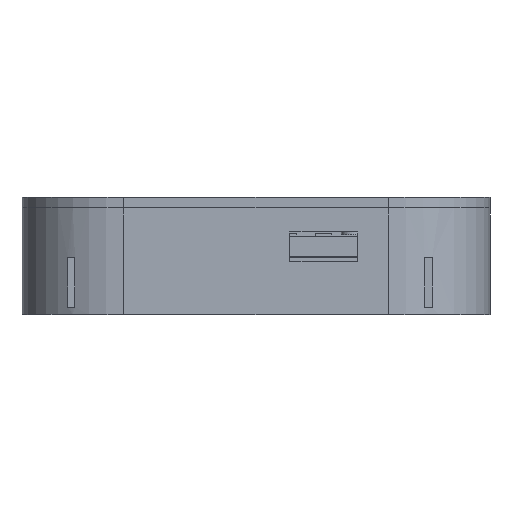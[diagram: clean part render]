
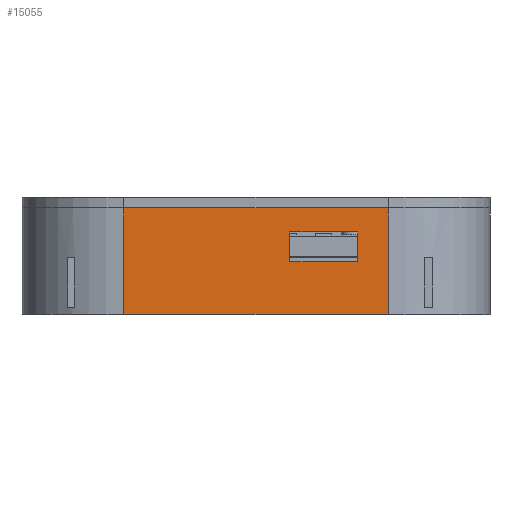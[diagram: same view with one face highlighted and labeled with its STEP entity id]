
A CAD part, front view. The second image highlights one B-rep face of the part: STEP entity #15055.
In plain terms, the highlighted planar face has unit normal (0, -1, 0).
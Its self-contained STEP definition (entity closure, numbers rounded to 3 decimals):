
#6659 = PLANE('',#6660);
#6660 = AXIS2_PLACEMENT_3D('',#6661,#6662,#6663);
#6661 = CARTESIAN_POINT('',(0.,0.,17.3));
#6662 = DIRECTION('',(0.,0.,1.));
#6663 = DIRECTION('',(1.,0.,-0.));
#8169 = CYLINDRICAL_SURFACE('',#8170,16.5);
#8170 = AXIS2_PLACEMENT_3D('',#8171,#8172,#8173);
#8171 = CARTESIAN_POINT('',(21.5,0.,0.));
#8172 = DIRECTION('',(-0.,-0.,-1.));
#8173 = DIRECTION('',(1.,0.,0.));
#9148 = PLANE('',#9149);
#9149 = AXIS2_PLACEMENT_3D('',#9150,#9151,#9152);
#9150 = CARTESIAN_POINT('',(5.5,-18.5,13.4));
#9151 = DIRECTION('',(0.,0.,1.));
#9152 = DIRECTION('',(1.,0.,0.));
#9174 = PLANE('',#9175);
#9175 = AXIS2_PLACEMENT_3D('',#9176,#9177,#9178);
#9176 = CARTESIAN_POINT('',(5.5,-18.5,8.6));
#9177 = DIRECTION('',(1.,0.,0.));
#9178 = DIRECTION('',(0.,0.,1.));
#9200 = PLANE('',#9201);
#9201 = AXIS2_PLACEMENT_3D('',#9202,#9203,#9204);
#9202 = CARTESIAN_POINT('',(5.5,-18.5,8.6));
#9203 = DIRECTION('',(0.,0.,1.));
#9204 = DIRECTION('',(1.,0.,0.));
#9224 = PLANE('',#9225);
#9225 = AXIS2_PLACEMENT_3D('',#9226,#9227,#9228);
#9226 = CARTESIAN_POINT('',(16.5,-18.5,8.6));
#9227 = DIRECTION('',(1.,0.,0.));
#9228 = DIRECTION('',(0.,0.,1.));
#12288 = EDGE_CURVE('',#12289,#12291,#12293,.T.);
#12289 = VERTEX_POINT('',#12290);
#12290 = CARTESIAN_POINT('',(-21.5,-16.5,17.3));
#12291 = VERTEX_POINT('',#12292);
#12292 = CARTESIAN_POINT('',(21.5,-16.5,17.3));
#12293 = SURFACE_CURVE('',#12294,(#12298,#12305),.PCURVE_S1.);
#12294 = LINE('',#12295,#12296);
#12295 = CARTESIAN_POINT('',(-21.5,-16.5,17.3));
#12296 = VECTOR('',#12297,1.);
#12297 = DIRECTION('',(1.,0.,0.));
#12298 = PCURVE('',#6659,#12299);
#12299 = DEFINITIONAL_REPRESENTATION('',(#12300),#12304);
#12300 = LINE('',#12301,#12302);
#12301 = CARTESIAN_POINT('',(-21.5,-16.5));
#12302 = VECTOR('',#12303,1.);
#12303 = DIRECTION('',(1.,0.));
#12304 = ( GEOMETRIC_REPRESENTATION_CONTEXT(2) 
PARAMETRIC_REPRESENTATION_CONTEXT() REPRESENTATION_CONTEXT('2D SPACE',''
  ) );
#12305 = PCURVE('',#12306,#12311);
#12306 = PLANE('',#12307);
#12307 = AXIS2_PLACEMENT_3D('',#12308,#12309,#12310);
#12308 = CARTESIAN_POINT('',(-21.5,-16.5,0.));
#12309 = DIRECTION('',(0.,1.,0.));
#12310 = DIRECTION('',(1.,0.,0.));
#12311 = DEFINITIONAL_REPRESENTATION('',(#12312),#12316);
#12312 = LINE('',#12313,#12314);
#12313 = CARTESIAN_POINT('',(0.,-17.3));
#12314 = VECTOR('',#12315,1.);
#12315 = DIRECTION('',(1.,0.));
#12316 = ( GEOMETRIC_REPRESENTATION_CONTEXT(2) 
PARAMETRIC_REPRESENTATION_CONTEXT() REPRESENTATION_CONTEXT('2D SPACE',''
  ) );
#12384 = CYLINDRICAL_SURFACE('',#12385,16.5);
#12385 = AXIS2_PLACEMENT_3D('',#12386,#12387,#12388);
#12386 = CARTESIAN_POINT('',(-21.5,0.,0.));
#12387 = DIRECTION('',(-0.,-0.,-1.));
#12388 = DIRECTION('',(1.,0.,0.));
#13387 = PLANE('',#13388);
#13388 = AXIS2_PLACEMENT_3D('',#13389,#13390,#13391);
#13389 = CARTESIAN_POINT('',(0.,0.,0.));
#13390 = DIRECTION('',(0.,0.,1.));
#13391 = DIRECTION('',(1.,0.,-0.));
#13699 = VERTEX_POINT('',#13700);
#13700 = CARTESIAN_POINT('',(21.5,-16.5,0.));
#13722 = EDGE_CURVE('',#13699,#12291,#13723,.T.);
#13723 = SURFACE_CURVE('',#13724,(#13728,#13735),.PCURVE_S1.);
#13724 = LINE('',#13725,#13726);
#13725 = CARTESIAN_POINT('',(21.5,-16.5,0.));
#13726 = VECTOR('',#13727,1.);
#13727 = DIRECTION('',(0.,0.,1.));
#13728 = PCURVE('',#8169,#13729);
#13729 = DEFINITIONAL_REPRESENTATION('',(#13730),#13734);
#13730 = LINE('',#13731,#13732);
#13731 = CARTESIAN_POINT('',(-4.712,0.));
#13732 = VECTOR('',#13733,1.);
#13733 = DIRECTION('',(-0.,-1.));
#13734 = ( GEOMETRIC_REPRESENTATION_CONTEXT(2) 
PARAMETRIC_REPRESENTATION_CONTEXT() REPRESENTATION_CONTEXT('2D SPACE',''
  ) );
#13735 = PCURVE('',#12306,#13736);
#13736 = DEFINITIONAL_REPRESENTATION('',(#13737),#13741);
#13737 = LINE('',#13738,#13739);
#13738 = CARTESIAN_POINT('',(43.,0.));
#13739 = VECTOR('',#13740,1.);
#13740 = DIRECTION('',(0.,-1.));
#13741 = ( GEOMETRIC_REPRESENTATION_CONTEXT(2) 
PARAMETRIC_REPRESENTATION_CONTEXT() REPRESENTATION_CONTEXT('2D SPACE',''
  ) );
#14197 = VERTEX_POINT('',#14198);
#14198 = CARTESIAN_POINT('',(5.5,-16.5,13.4));
#14219 = EDGE_CURVE('',#14197,#14220,#14222,.T.);
#14220 = VERTEX_POINT('',#14221);
#14221 = CARTESIAN_POINT('',(16.5,-16.5,13.4));
#14222 = SURFACE_CURVE('',#14223,(#14227,#14233),.PCURVE_S1.);
#14223 = LINE('',#14224,#14225);
#14224 = CARTESIAN_POINT('',(-8.,-16.5,13.4));
#14225 = VECTOR('',#14226,1.);
#14226 = DIRECTION('',(1.,0.,0.));
#14227 = PCURVE('',#9148,#14228);
#14228 = DEFINITIONAL_REPRESENTATION('',(#14229),#14232);
#14229 = B_SPLINE_CURVE_WITH_KNOTS('',1,(#14230,#14231),.UNSPECIFIED.,
  .F.,.F.,(2,2),(13.5,24.5),.PIECEWISE_BEZIER_KNOTS.);
#14230 = CARTESIAN_POINT('',(0.,2.));
#14231 = CARTESIAN_POINT('',(11.,2.));
#14232 = ( GEOMETRIC_REPRESENTATION_CONTEXT(2) 
PARAMETRIC_REPRESENTATION_CONTEXT() REPRESENTATION_CONTEXT('2D SPACE',''
  ) );
#14233 = PCURVE('',#12306,#14234);
#14234 = DEFINITIONAL_REPRESENTATION('',(#14235),#14238);
#14235 = B_SPLINE_CURVE_WITH_KNOTS('',1,(#14236,#14237),.UNSPECIFIED.,
  .F.,.F.,(2,2),(13.5,24.5),.PIECEWISE_BEZIER_KNOTS.);
#14236 = CARTESIAN_POINT('',(27.,-13.4));
#14237 = CARTESIAN_POINT('',(38.,-13.4));
#14238 = ( GEOMETRIC_REPRESENTATION_CONTEXT(2) 
PARAMETRIC_REPRESENTATION_CONTEXT() REPRESENTATION_CONTEXT('2D SPACE',''
  ) );
#14266 = EDGE_CURVE('',#14220,#14267,#14269,.T.);
#14267 = VERTEX_POINT('',#14268);
#14268 = CARTESIAN_POINT('',(16.5,-16.5,8.6));
#14269 = SURFACE_CURVE('',#14270,(#14274,#14280),.PCURVE_S1.);
#14270 = LINE('',#14271,#14272);
#14271 = CARTESIAN_POINT('',(16.5,-16.5,4.3));
#14272 = VECTOR('',#14273,1.);
#14273 = DIRECTION('',(0.,0.,-1.));
#14274 = PCURVE('',#9224,#14275);
#14275 = DEFINITIONAL_REPRESENTATION('',(#14276),#14279);
#14276 = B_SPLINE_CURVE_WITH_KNOTS('',1,(#14277,#14278),.UNSPECIFIED.,
  .F.,.F.,(2,2),(-9.1,-4.3),.PIECEWISE_BEZIER_KNOTS.);
#14277 = CARTESIAN_POINT('',(4.8,-2.));
#14278 = CARTESIAN_POINT('',(0.,-2.));
#14279 = ( GEOMETRIC_REPRESENTATION_CONTEXT(2) 
PARAMETRIC_REPRESENTATION_CONTEXT() REPRESENTATION_CONTEXT('2D SPACE',''
  ) );
#14280 = PCURVE('',#12306,#14281);
#14281 = DEFINITIONAL_REPRESENTATION('',(#14282),#14285);
#14282 = B_SPLINE_CURVE_WITH_KNOTS('',1,(#14283,#14284),.UNSPECIFIED.,
  .F.,.F.,(2,2),(-9.1,-4.3),.PIECEWISE_BEZIER_KNOTS.);
#14283 = CARTESIAN_POINT('',(38.,-13.4));
#14284 = CARTESIAN_POINT('',(38.,-8.6));
#14285 = ( GEOMETRIC_REPRESENTATION_CONTEXT(2) 
PARAMETRIC_REPRESENTATION_CONTEXT() REPRESENTATION_CONTEXT('2D SPACE',''
  ) );
#14313 = VERTEX_POINT('',#14314);
#14314 = CARTESIAN_POINT('',(5.5,-16.5,8.6));
#14335 = EDGE_CURVE('',#14313,#14267,#14336,.T.);
#14336 = SURFACE_CURVE('',#14337,(#14341,#14347),.PCURVE_S1.);
#14337 = LINE('',#14338,#14339);
#14338 = CARTESIAN_POINT('',(-8.,-16.5,8.6));
#14339 = VECTOR('',#14340,1.);
#14340 = DIRECTION('',(1.,0.,0.));
#14341 = PCURVE('',#9200,#14342);
#14342 = DEFINITIONAL_REPRESENTATION('',(#14343),#14346);
#14343 = B_SPLINE_CURVE_WITH_KNOTS('',1,(#14344,#14345),.UNSPECIFIED.,
  .F.,.F.,(2,2),(13.5,24.5),.PIECEWISE_BEZIER_KNOTS.);
#14344 = CARTESIAN_POINT('',(0.,2.));
#14345 = CARTESIAN_POINT('',(11.,2.));
#14346 = ( GEOMETRIC_REPRESENTATION_CONTEXT(2) 
PARAMETRIC_REPRESENTATION_CONTEXT() REPRESENTATION_CONTEXT('2D SPACE',''
  ) );
#14347 = PCURVE('',#12306,#14348);
#14348 = DEFINITIONAL_REPRESENTATION('',(#14349),#14352);
#14349 = B_SPLINE_CURVE_WITH_KNOTS('',1,(#14350,#14351),.UNSPECIFIED.,
  .F.,.F.,(2,2),(13.5,24.5),.PIECEWISE_BEZIER_KNOTS.);
#14350 = CARTESIAN_POINT('',(27.,-8.6));
#14351 = CARTESIAN_POINT('',(38.,-8.6));
#14352 = ( GEOMETRIC_REPRESENTATION_CONTEXT(2) 
PARAMETRIC_REPRESENTATION_CONTEXT() REPRESENTATION_CONTEXT('2D SPACE',''
  ) );
#14360 = EDGE_CURVE('',#14197,#14313,#14361,.T.);
#14361 = SURFACE_CURVE('',#14362,(#14366,#14372),.PCURVE_S1.);
#14362 = LINE('',#14363,#14364);
#14363 = CARTESIAN_POINT('',(5.5,-16.5,4.3));
#14364 = VECTOR('',#14365,1.);
#14365 = DIRECTION('',(0.,0.,-1.));
#14366 = PCURVE('',#9174,#14367);
#14367 = DEFINITIONAL_REPRESENTATION('',(#14368),#14371);
#14368 = B_SPLINE_CURVE_WITH_KNOTS('',1,(#14369,#14370),.UNSPECIFIED.,
  .F.,.F.,(2,2),(-9.1,-4.3),.PIECEWISE_BEZIER_KNOTS.);
#14369 = CARTESIAN_POINT('',(4.8,-2.));
#14370 = CARTESIAN_POINT('',(0.,-2.));
#14371 = ( GEOMETRIC_REPRESENTATION_CONTEXT(2) 
PARAMETRIC_REPRESENTATION_CONTEXT() REPRESENTATION_CONTEXT('2D SPACE',''
  ) );
#14372 = PCURVE('',#12306,#14373);
#14373 = DEFINITIONAL_REPRESENTATION('',(#14374),#14377);
#14374 = B_SPLINE_CURVE_WITH_KNOTS('',1,(#14375,#14376),.UNSPECIFIED.,
  .F.,.F.,(2,2),(-9.1,-4.3),.PIECEWISE_BEZIER_KNOTS.);
#14375 = CARTESIAN_POINT('',(27.,-13.4));
#14376 = CARTESIAN_POINT('',(27.,-8.6));
#14377 = ( GEOMETRIC_REPRESENTATION_CONTEXT(2) 
PARAMETRIC_REPRESENTATION_CONTEXT() REPRESENTATION_CONTEXT('2D SPACE',''
  ) );
#15055 = ADVANCED_FACE('',(#15056,#15104),#12306,.F.);
#15056 = FACE_BOUND('',#15057,.F.);
#15057 = EDGE_LOOP('',(#15058,#15081,#15082,#15083));
#15058 = ORIENTED_EDGE('',*,*,#15059,.T.);
#15059 = EDGE_CURVE('',#15060,#12289,#15062,.T.);
#15060 = VERTEX_POINT('',#15061);
#15061 = CARTESIAN_POINT('',(-21.5,-16.5,0.));
#15062 = SURFACE_CURVE('',#15063,(#15067,#15074),.PCURVE_S1.);
#15063 = LINE('',#15064,#15065);
#15064 = CARTESIAN_POINT('',(-21.5,-16.5,0.));
#15065 = VECTOR('',#15066,1.);
#15066 = DIRECTION('',(0.,0.,1.));
#15067 = PCURVE('',#12306,#15068);
#15068 = DEFINITIONAL_REPRESENTATION('',(#15069),#15073);
#15069 = LINE('',#15070,#15071);
#15070 = CARTESIAN_POINT('',(0.,0.));
#15071 = VECTOR('',#15072,1.);
#15072 = DIRECTION('',(0.,-1.));
#15073 = ( GEOMETRIC_REPRESENTATION_CONTEXT(2) 
PARAMETRIC_REPRESENTATION_CONTEXT() REPRESENTATION_CONTEXT('2D SPACE',''
  ) );
#15074 = PCURVE('',#12384,#15075);
#15075 = DEFINITIONAL_REPRESENTATION('',(#15076),#15080);
#15076 = LINE('',#15077,#15078);
#15077 = CARTESIAN_POINT('',(-4.712,0.));
#15078 = VECTOR('',#15079,1.);
#15079 = DIRECTION('',(-0.,-1.));
#15080 = ( GEOMETRIC_REPRESENTATION_CONTEXT(2) 
PARAMETRIC_REPRESENTATION_CONTEXT() REPRESENTATION_CONTEXT('2D SPACE',''
  ) );
#15081 = ORIENTED_EDGE('',*,*,#12288,.T.);
#15082 = ORIENTED_EDGE('',*,*,#13722,.F.);
#15083 = ORIENTED_EDGE('',*,*,#15084,.F.);
#15084 = EDGE_CURVE('',#15060,#13699,#15085,.T.);
#15085 = SURFACE_CURVE('',#15086,(#15090,#15097),.PCURVE_S1.);
#15086 = LINE('',#15087,#15088);
#15087 = CARTESIAN_POINT('',(-21.5,-16.5,0.));
#15088 = VECTOR('',#15089,1.);
#15089 = DIRECTION('',(1.,0.,0.));
#15090 = PCURVE('',#12306,#15091);
#15091 = DEFINITIONAL_REPRESENTATION('',(#15092),#15096);
#15092 = LINE('',#15093,#15094);
#15093 = CARTESIAN_POINT('',(0.,0.));
#15094 = VECTOR('',#15095,1.);
#15095 = DIRECTION('',(1.,0.));
#15096 = ( GEOMETRIC_REPRESENTATION_CONTEXT(2) 
PARAMETRIC_REPRESENTATION_CONTEXT() REPRESENTATION_CONTEXT('2D SPACE',''
  ) );
#15097 = PCURVE('',#13387,#15098);
#15098 = DEFINITIONAL_REPRESENTATION('',(#15099),#15103);
#15099 = LINE('',#15100,#15101);
#15100 = CARTESIAN_POINT('',(-21.5,-16.5));
#15101 = VECTOR('',#15102,1.);
#15102 = DIRECTION('',(1.,0.));
#15103 = ( GEOMETRIC_REPRESENTATION_CONTEXT(2) 
PARAMETRIC_REPRESENTATION_CONTEXT() REPRESENTATION_CONTEXT('2D SPACE',''
  ) );
#15104 = FACE_BOUND('',#15105,.F.);
#15105 = EDGE_LOOP('',(#15106,#15107,#15108,#15109));
#15106 = ORIENTED_EDGE('',*,*,#14219,.F.);
#15107 = ORIENTED_EDGE('',*,*,#14360,.T.);
#15108 = ORIENTED_EDGE('',*,*,#14335,.T.);
#15109 = ORIENTED_EDGE('',*,*,#14266,.F.);
